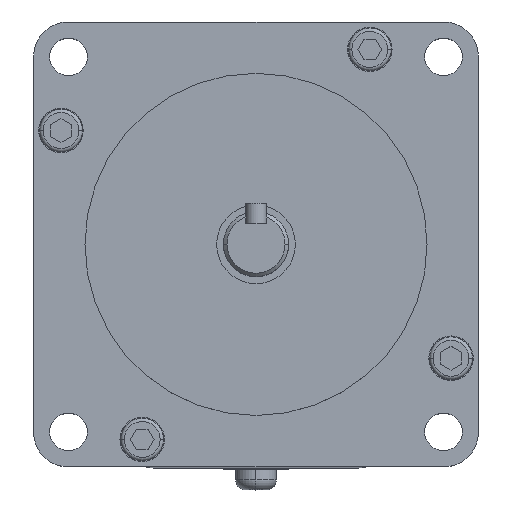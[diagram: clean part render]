
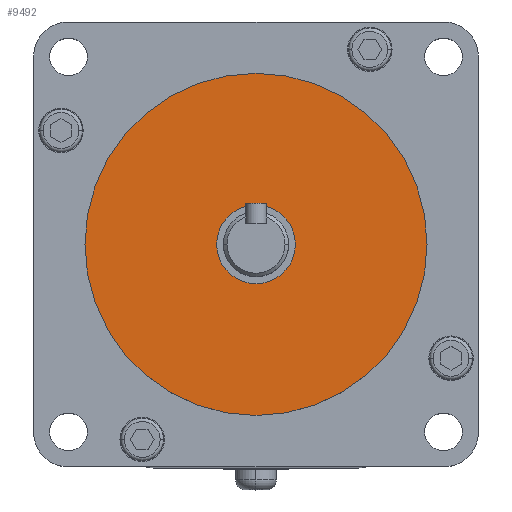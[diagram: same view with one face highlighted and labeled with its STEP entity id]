
A CAD part, top view. The second image highlights one B-rep face of the part: STEP entity #9492.
In plain terms, the highlighted planar face has unit normal (0, 0, 1).
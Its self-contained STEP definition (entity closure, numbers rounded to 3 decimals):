
#84 = VERTEX_POINT ( 'NONE', #1728 ) ;
#85 = CARTESIAN_POINT ( 'NONE',  ( 11.5, 0., 253.5 ) ) ;
#977 = ORIENTED_EDGE ( 'NONE', *, *, #9782, .F. ) ;
#1200 = CARTESIAN_POINT ( 'NONE',  ( 0., 0., 253.5 ) ) ;
#1211 = CARTESIAN_POINT ( 'NONE',  ( -11.5, 0., 253.5 ) ) ;
#1233 = DIRECTION ( 'NONE',  ( 1., 0., 0. ) ) ;
#1309 = FACE_OUTER_BOUND ( 'NONE', #9153, .T. ) ;
#1403 = AXIS2_PLACEMENT_3D ( 'NONE', #3614, #5059, #8306 ) ;
#1728 = CARTESIAN_POINT ( 'NONE',  ( 50., 0., 253.5 ) ) ;
#1821 = DIRECTION ( 'NONE',  ( 1., 0., 0. ) ) ;
#2072 = CIRCLE ( 'NONE', #1403, 11.5 ) ;
#2482 = VERTEX_POINT ( 'NONE', #85 ) ;
#2555 = DIRECTION ( 'NONE',  ( 0., 0., 1. ) ) ;
#2586 = CIRCLE ( 'NONE', #5461, 50. ) ;
#2658 = AXIS2_PLACEMENT_3D ( 'NONE', #5246, #8494, #1233 ) ;
#2718 = DIRECTION ( 'NONE',  ( 0., 0., 1. ) ) ;
#2769 = DIRECTION ( 'NONE',  ( 0., 0., 1. ) ) ;
#3374 = ORIENTED_EDGE ( 'NONE', *, *, #9697, .T. ) ;
#3614 = CARTESIAN_POINT ( 'NONE',  ( 0., 0., 253.5 ) ) ;
#3711 = CARTESIAN_POINT ( 'NONE',  ( -50., 0., 253.5 ) ) ;
#4534 = PLANE ( 'NONE',  #5653 ) ;
#4609 = CIRCLE ( 'NONE', #6655, 50. ) ;
#4839 = CARTESIAN_POINT ( 'NONE',  ( 0., 0., 253.5 ) ) ;
#4998 = DIRECTION ( 'NONE',  ( 1., 0., 0. ) ) ;
#5059 = DIRECTION ( 'NONE',  ( 0., 0., 1. ) ) ;
#5153 = CARTESIAN_POINT ( 'NONE',  ( 0., 0., 253.5 ) ) ;
#5246 = CARTESIAN_POINT ( 'NONE',  ( 0., 0., 253.5 ) ) ;
#5426 = FACE_BOUND ( 'NONE', #8759, .T. ) ;
#5461 = AXIS2_PLACEMENT_3D ( 'NONE', #5153, #2769, #9074 ) ;
#5653 = AXIS2_PLACEMENT_3D ( 'NONE', #4839, #2555, #4998 ) ;
#6261 = ORIENTED_EDGE ( 'NONE', *, *, #9762, .T. ) ;
#6346 = ORIENTED_EDGE ( 'NONE', *, *, #10184, .F. ) ;
#6655 = AXIS2_PLACEMENT_3D ( 'NONE', #1200, #2718, #1821 ) ;
#8089 = VERTEX_POINT ( 'NONE', #3711 ) ;
#8306 = DIRECTION ( 'NONE',  ( 1., 0., 0. ) ) ;
#8494 = DIRECTION ( 'NONE',  ( 0., 0., 1. ) ) ;
#8759 = EDGE_LOOP ( 'NONE', ( #6346, #977 ) ) ;
#9074 = DIRECTION ( 'NONE',  ( 1., 0., 0. ) ) ;
#9153 = EDGE_LOOP ( 'NONE', ( #6261, #3374 ) ) ;
#9319 = VERTEX_POINT ( 'NONE', #1211 ) ;
#9492 = ADVANCED_FACE ( 'NONE', ( #1309, #5426 ), #4534, .T. ) ;
#9697 = EDGE_CURVE ( 'NONE', #84, #8089, #2586, .T. ) ;
#9762 = EDGE_CURVE ( 'NONE', #8089, #84, #4609, .T. ) ;
#9782 = EDGE_CURVE ( 'NONE', #2482, #9319, #2072, .T. ) ;
#10184 = EDGE_CURVE ( 'NONE', #9319, #2482, #10272, .T. ) ;
#10272 = CIRCLE ( 'NONE', #2658, 11.5 ) ;
